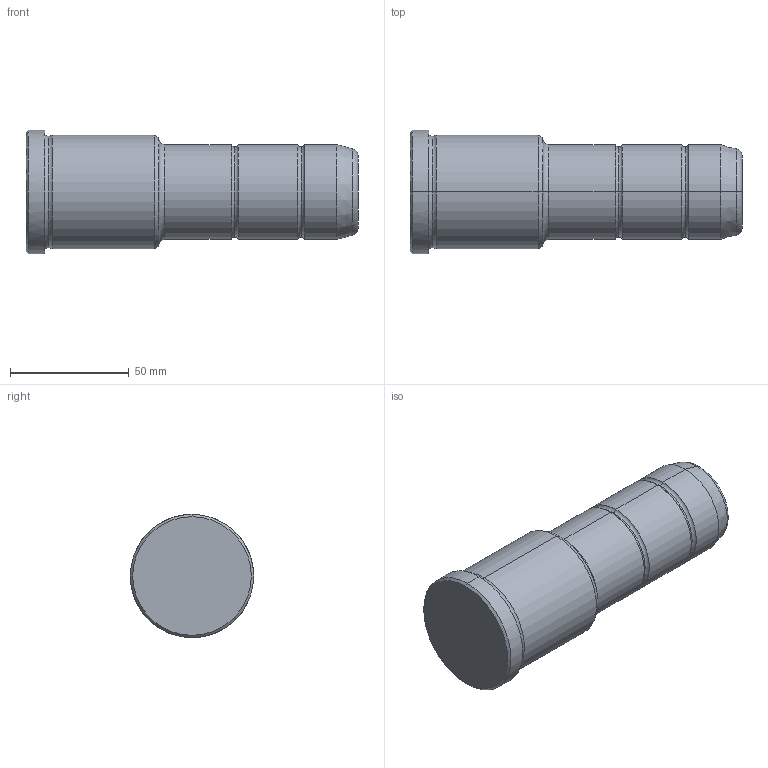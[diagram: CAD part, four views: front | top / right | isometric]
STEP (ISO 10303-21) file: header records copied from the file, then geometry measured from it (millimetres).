
FILE_DESCRIPTION(('CATIA V5 STEP Exchange'),'2;1');
FILE_NAME('C:\Users\Utente\Desktop\IO LAVORO\3D X SITO CF\X SITO\PLASTICA\351\351-40X56X140.stp','2021-10-28T18:33:09+00:00',('none'),('none'),'CATIA Version 5 Release 20 GA (IN-10)','CATIA V5 STEP AP203','none');
FILE_SCHEMA(('CONFIG_CONTROL_DESIGN'));
Length unit declared in the file: millimetre
Products named in the file (1): 351-40X56X140
Bounding box: 140 x 52 x 52 mm (x, y, z)
Volume: 207222.1 mm3; surface area: 22796.2 mm2
Topology: 1 solids, 1 shells, 36 faces, 102 edges, 70 vertices
Faces by surface type: torus 16, cylinder 10, cone 6, plane 4
Entity records: 1292 total; most frequent: CARTESIAN_POINT 321, ORIENTED_EDGE 204, DIRECTION 166, AXIS2_PLACEMENT_3D 115, EDGE_CURVE 102, CIRCLE 78, VERTEX_POINT 70, EDGE_LOOP 38
